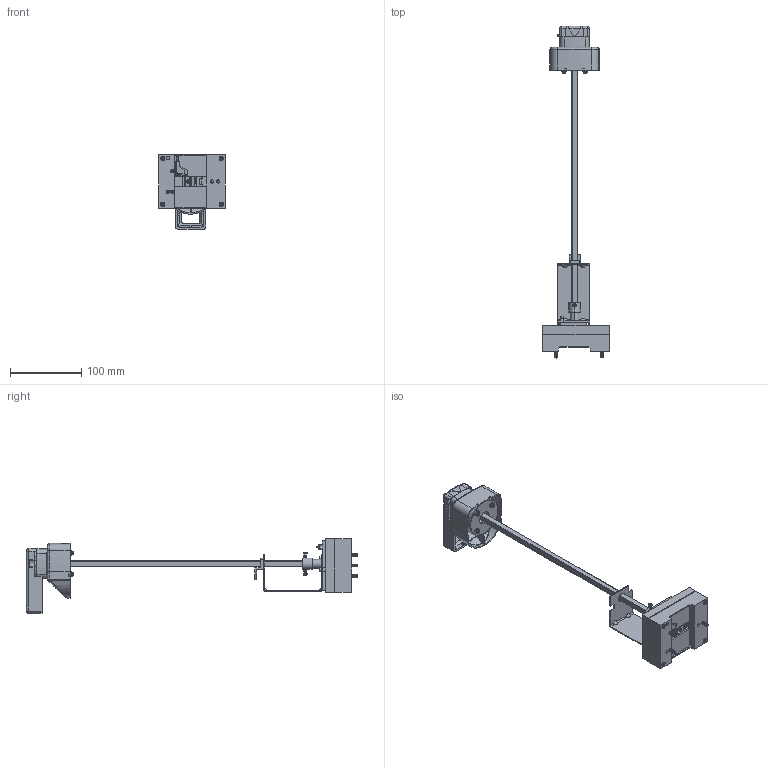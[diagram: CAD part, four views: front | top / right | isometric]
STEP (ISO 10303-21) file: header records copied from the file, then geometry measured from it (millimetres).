
FILE_DESCRIPTION (( 'STEP AP203' ), '1' );
FILE_NAME ('Ðóêîÿòêà ïîâîðîòíàÿ âûíîñíàÿ OptiMat E250.STEP', '2015-02-20T11:16:37', ( 'admin' ), ( '' ), 'SwSTEP 2.0', 'SolidWorks 2007', '' );
FILE_SCHEMA (( 'CONFIG_CONTROL_DESIGN' ));
Products named in the file (1): Ðóêîÿòêà ïîâîðîòíàÿ âûíîñíàÿ OptiMat E250
Bounding box: 94 x 467 x 104.6 mm (x, y, z)
Surface area: 119695.6 mm2 (no closed solid volume)
Topology: 0 solids, 61 shells, 1195 faces, 4830 edges, 3575 vertices
Faces by surface type: cylinder 644, plane 329, sphere 114, cone 61, bspline 37, torus 10
Entity records: 61935 total; most frequent: CARTESIAN_POINT 26286, ORIENTED_EDGE 7111, DIRECTION 6946, EDGE_CURVE 4624, VERTEX_POINT 3477, AXIS2_PLACEMENT_3D 2369, VECTOR 2208, LINE 2208
